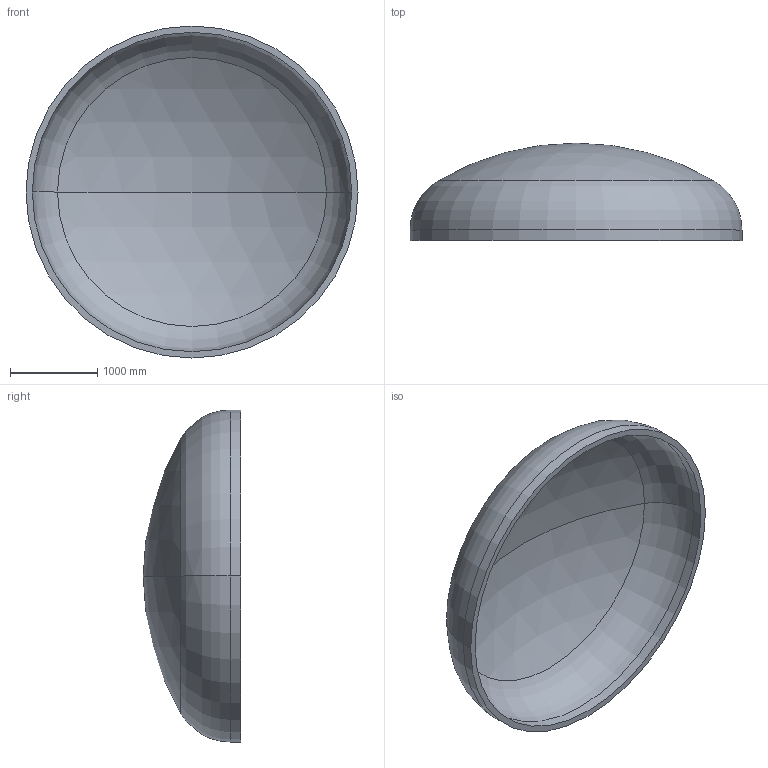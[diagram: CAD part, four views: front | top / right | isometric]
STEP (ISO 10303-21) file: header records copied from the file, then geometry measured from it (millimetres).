
FILE_DESCRIPTION (( 'STEP AP203' ), '1' );
FILE_NAME ('DIN 28013 Korbbogenform_-_Boden DIN 28013 - 3800 x 120 - I - s=72.step', '2016-07-01T21:37:36', ( '' ), ( '' ), 'SwSTEP 2.0', 'SolidWorks 2013', '' );
FILE_SCHEMA (( 'CONFIG_CONTROL_DESIGN' ));
Length unit declared in the file: millimetre
Products named in the file (1): DIN 28013 Korbbogenform_-_Boden DIN 28013 - 3800 x 120 - I - s=72
Bounding box: 3800 x 1114.93 x 3800 mm (x, y, z)
Volume: 1204162145.6 mm3; surface area: 34303047.8 mm2
Topology: 1 solids, 1 shells, 13 faces, 24 edges, 14 vertices
Faces by surface type: torus 4, cylinder 4, sphere 4, plane 1
Entity records: 407 total; most frequent: DIRECTION 72, CARTESIAN_POINT 52, ORIENTED_EDGE 48, AXIS2_PLACEMENT_3D 34, EDGE_CURVE 24, CIRCLE 20, VERTEX_POINT 14, EDGE_LOOP 14
